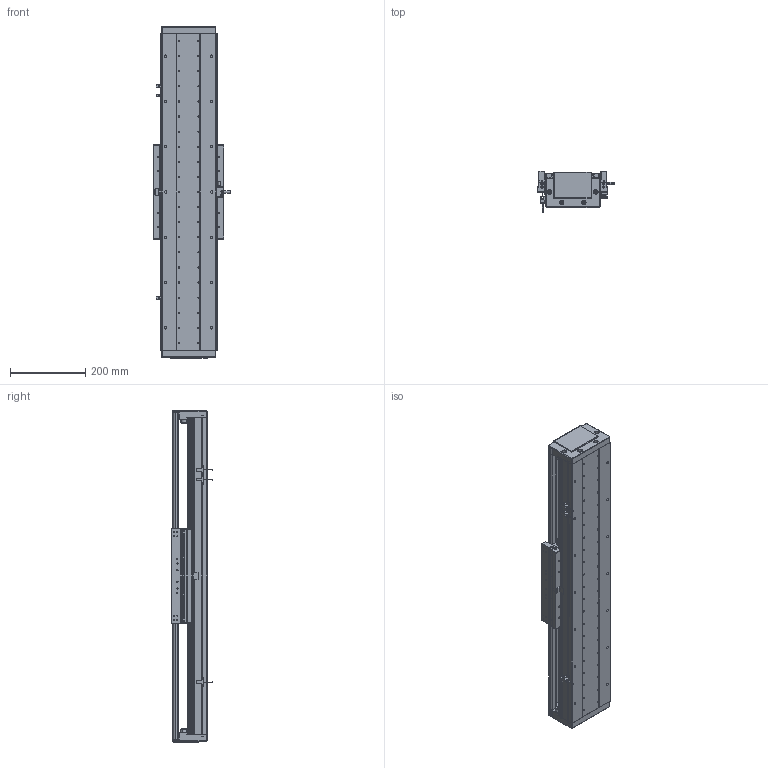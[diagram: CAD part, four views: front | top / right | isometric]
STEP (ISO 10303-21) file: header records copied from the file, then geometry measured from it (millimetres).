
FILE_DESCRIPTION (( 'STEP AP203' ), '1' );
FILE_NAME ('DA-C145-C3-T540-C010-0.2 眻盄萇儂.STEP', '2025-08-14T01:17:49', ( '' ), ( '' ), 'SwSTEP 2.0', 'SolidWorks 2019', '' );
FILE_SCHEMA (( 'CONFIG_CONTROL_DESIGN' ));
Length unit declared in the file: millimetre
Products named in the file (29): 复件 DA95-MFP-01 密封片^CU145-W 滚珠滑台; 葩璃 DA145-DG-H-N-00 傷裔^DA-C145-C3-T-C010-0.2; 复件 内六角平端紧定螺钉 GB.T77-2000 M5×10^CU145-W 滚珠滑台; 复件 DA145-C3-YB-A-00 压板A^CU145-W 滚珠滑台; IU-CU145-L 菁釱絳寢; 葩璃 鞠褒情蹟譫 M3^DA-C145-C3-T-C010-0.2; 葩璃 DA145-C3-DP-A-00 菜えA^CU145-W 幗紩賑怢; 葩璃 DA95-GT-T-00^IU-CU145-L 菁釱絳寢; 复件 纯铜油杯 6x6mm^CU145-W 滚珠滑台; CU145-W-00 珨极趙賑雄怢啣; CU145-W 幗紩賑怢; 葩璃 DMA-010-0.2 黍杅芛^DA-C145-C3-T-C010-0.2; 复件 DA145-C3-DK-00 挡块^CU145-W 滚珠滑台; 葩璃 CKMA01-W060-TRL^DA-C145-C3-T-C010-0.2; 葩璃 DA95-HXJ-00 遣喳砎蝶^DA-C145-C3-T-C010-0.2; 复件 DA145-GYP-00 光电感应片^DA-C145-C3-T-C010-0.2; 复件 DA95-HK-GT-00 滑块钢轨^CU145-W-00 一体化滑动台板; 葩璃 PM-T45^DA-C145-C3-T-C010-0.2; 葩璃 DA145-C3-DP-B-00 菜えB^CU145-W 幗紩賑怢; 复件 半圆头内六角螺钉 M3×6^CU145-W 滚珠滑台; 复件 DA95-DB-00  挡板^CU145-W 滚珠滑台; 葩璃 CKM03-W060-C1C2-TP-0.2^DA-C145-C3-T-C010-0.2; 66245-CU145-HT-W-00 賑雄怢啣(3D芞祧)(00); 葩璃 XD-U-02L 棠掑喜^DA-C145-C3-T-C010-0.2; IU-CU145-L-00 菁釱(L840); 复件 DA145-C3-YB-B-00 压板B^CU145-W 滚珠滑台; 葩璃 DA145-T-003-00 裔啣^DA-C145-C3-T-C010-0.2; TAY01-M8; DA-C145-C3-T540-C010-0.2 眻盄萇儂
Assembly tree (98 placements, depth 4):
  DA-C145-C3-T540-C010-0.2 眻盄萇儂
    IU-CU145-L 菁釱絳寢
      IU-CU145-L-00 菁釱(L840)
      葩璃 DA95-GT-T-00^IU-CU145-L 菁釱絳寢  x4
    CU145-W 幗紩賑怢
      CU145-W-00 珨极趙賑雄怢啣
        66245-CU145-HT-W-00 賑雄怢啣(3D芞祧)(00)
        复件 DA95-HK-GT-00 滑块钢轨^CU145-W-00 一体化滑动台板  x8
      复件 DA95-MFP-01 密封片^CU145-W 滚珠滑台  x8
      复件 DA95-DB-00  挡板^CU145-W 滚珠滑台  x8
      复件 内六角平端紧定螺钉 GB.T77-2000 M5×10^CU145-W 滚珠滑台  x4
      复件 纯铜油杯 6x6mm^CU145-W 滚珠滑台  x4
      复件 半圆头内六角螺钉 M3×6^CU145-W 滚珠滑台  x16
      复件 DA145-C3-DK-00 挡块^CU145-W 滚珠滑台  x4
      葩璃 DA145-C3-DP-B-00 菜えB^CU145-W 幗紩賑怢  x2
      复件 DA145-C3-YB-B-00 压板B^CU145-W 滚珠滑台  x2
      葩璃 DA145-C3-DP-A-00 菜えA^CU145-W 幗紩賑怢  x3
      复件 DA145-C3-YB-A-00 压板A^CU145-W 滚珠滑台  x3
      TAY01-M8  x4
    葩璃 CKMA01-W060-TRL^DA-C145-C3-T-C010-0.2
    葩璃 PM-T45^DA-C145-C3-T-C010-0.2  x3
    葩璃 XD-U-02L 棠掑喜^DA-C145-C3-T-C010-0.2
    葩璃 DA145-DG-H-N-00 傷裔^DA-C145-C3-T-C010-0.2  x2
    葩璃 DA145-T-003-00 裔啣^DA-C145-C3-T-C010-0.2
    葩璃 DA95-HXJ-00 遣喳砎蝶^DA-C145-C3-T-C010-0.2  x4
    复件 DA145-GYP-00 光电感应片^DA-C145-C3-T-C010-0.2
    葩璃 DMA-010-0.2 黍杅芛^DA-C145-C3-T-C010-0.2
    葩璃 CKM03-W060-C1C2-TP-0.2^DA-C145-C3-T-C010-0.2
    葩璃 鞠褒情蹟譫 M3^DA-C145-C3-T-C010-0.2  x8
Bounding box: 203.5 x 108.45 x 880 mm (x, y, z)
Volume: 6196979.3 mm3; surface area: 1766656.5 mm2
Topology: 95 solids, 127 shells, 3879 faces, 10203 edges, 6280 vertices
Faces by surface type: cylinder 1592, plane 1571, cone 626, torus 86, sphere 4
Entity records: 86225 total; most frequent: CARTESIAN_POINT 20814, DIRECTION 12833, ORIENTED_EDGE 12404, EDGE_CURVE 6202, AXIS2_PLACEMENT_3D 4768, VERTEX_POINT 3969, VECTOR 3297, LINE 3297
